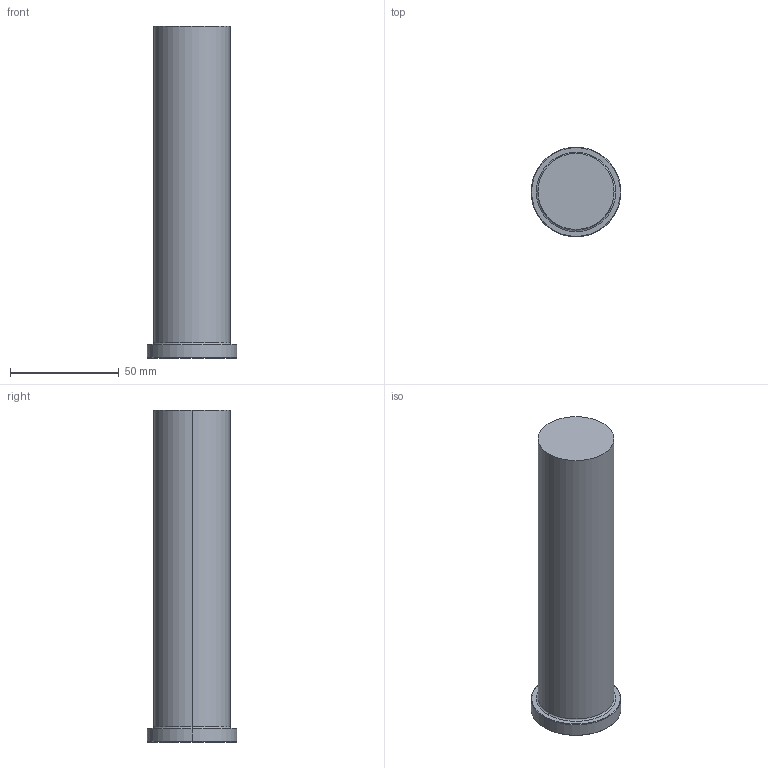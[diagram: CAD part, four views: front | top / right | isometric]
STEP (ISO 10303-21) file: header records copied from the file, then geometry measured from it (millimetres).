
FILE_DESCRIPTION (( 'STEP AP203' ), '1' );
FILE_NAME ('CPS1375L6.step', '2026-05-01T18:03:16', ( '' ), ( '' ), 'SwSTEP 2.0', 'SolidWorks 2023', '' );
FILE_SCHEMA (( 'CONFIG_CONTROL_DESIGN' ));
Length unit declared in the file: inch
Products named in the file (1): CPS1375L6
Bounding box: 41.27 x 41.27 x 152.4 mm (x, y, z)
Volume: 148416.9 mm3; surface area: 19449.7 mm2
Topology: 1 solids, 1 shells, 13 faces, 24 edges, 14 vertices
Faces by surface type: cone 4, cylinder 4, plane 3, torus 2
Entity records: 405 total; most frequent: DIRECTION 68, CARTESIAN_POINT 52, ORIENTED_EDGE 48, AXIS2_PLACEMENT_3D 30, EDGE_CURVE 24, CIRCLE 16, EDGE_LOOP 14, VERTEX_POINT 14
